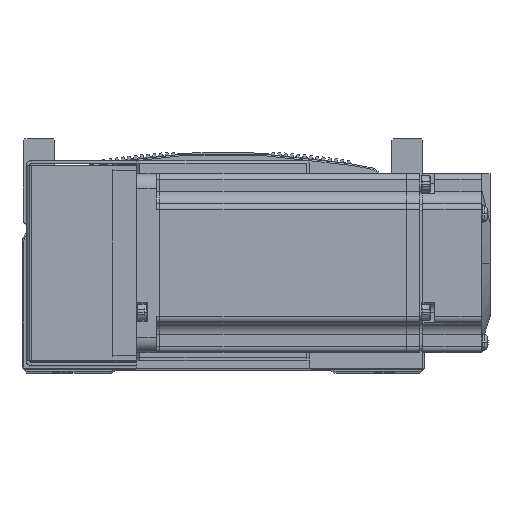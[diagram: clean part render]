
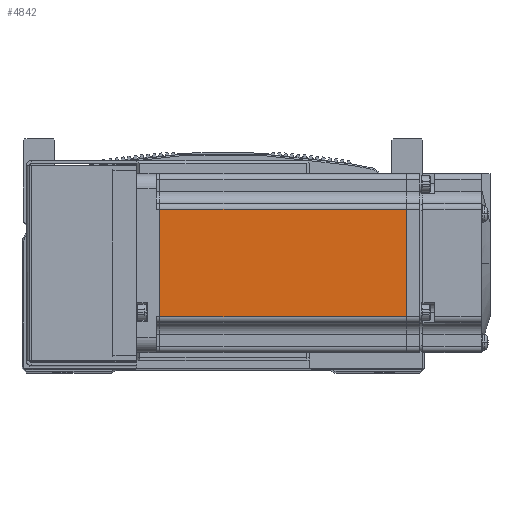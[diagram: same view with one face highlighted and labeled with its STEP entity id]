
A CAD part, top view. The second image highlights one B-rep face of the part: STEP entity #4842.
In plain terms, the highlighted planar face has unit normal (0, 0, 1) as drawn and (0, 0, -1) by its records, which use the part's own axes.
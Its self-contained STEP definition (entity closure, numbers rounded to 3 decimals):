
#4842 = ADVANCED_FACE ( 'NONE', ( #42727 ), #71141, .T. ) ;
#10644 = VECTOR ( 'NONE', #12331, 1000. ) ;
#10655 = LINE ( 'NONE', #12284, #10644 ) ;
#10696 = LINE ( 'NONE', #12427, #10724 ) ;
#10724 = VECTOR ( 'NONE', #12473, 1000. ) ;
#10727 = LINE ( 'NONE', #12731, #10762 ) ;
#10744 = VECTOR ( 'NONE', #12904, 1000. ) ;
#10760 = LINE ( 'NONE', #12844, #10744 ) ;
#10762 = VECTOR ( 'NONE', #12917, 1000. ) ;
#12284 = CARTESIAN_POINT ( 'NONE',  ( -6.5, -18., -30. ) ) ;
#12331 = DIRECTION ( 'NONE',  ( -1., 0., 0. ) ) ;
#12427 = CARTESIAN_POINT ( 'NONE',  ( -7.75, 25., -30. ) ) ;
#12473 = DIRECTION ( 'NONE',  ( 0., -1., 0. ) ) ;
#12731 = CARTESIAN_POINT ( 'NONE',  ( -6.5, 18., -30. ) ) ;
#12844 = CARTESIAN_POINT ( 'NONE',  ( -90.45, 25., -30. ) ) ;
#12904 = DIRECTION ( 'NONE',  ( 0., 1., 0. ) ) ;
#12917 = DIRECTION ( 'NONE',  ( 1., 0., 0. ) ) ;
#34470 = AXIS2_PLACEMENT_3D ( 'NONE', #71129, #71099, #71114 ) ;
#38364 = VERTEX_POINT ( 'NONE', #51764 ) ;
#38389 = VERTEX_POINT ( 'NONE', #51739 ) ;
#38447 = VERTEX_POINT ( 'NONE', #51812 ) ;
#38560 = VERTEX_POINT ( 'NONE', #51787 ) ;
#42727 = FACE_OUTER_BOUND ( 'NONE', #69717, .T. ) ;
#50460 = ORIENTED_EDGE ( 'NONE', *, *, #68138, .T. ) ;
#50616 = ORIENTED_EDGE ( 'NONE', *, *, #68087, .T. ) ;
#50693 = ORIENTED_EDGE ( 'NONE', *, *, #68067, .T. ) ;
#50713 = ORIENTED_EDGE ( 'NONE', *, *, #68127, .T. ) ;
#51739 = CARTESIAN_POINT ( 'NONE',  ( -7.75, 18., -30. ) ) ;
#51764 = CARTESIAN_POINT ( 'NONE',  ( -90.45, -18., -30. ) ) ;
#51787 = CARTESIAN_POINT ( 'NONE',  ( -7.75, -18., -30. ) ) ;
#51812 = CARTESIAN_POINT ( 'NONE',  ( -90.45, 18., -30. ) ) ;
#68067 = EDGE_CURVE ( 'NONE', #38560, #38364, #10655, .T. ) ;
#68087 = EDGE_CURVE ( 'NONE', #38389, #38560, #10696, .T. ) ;
#68127 = EDGE_CURVE ( 'NONE', #38447, #38389, #10727, .T. ) ;
#68138 = EDGE_CURVE ( 'NONE', #38364, #38447, #10760, .T. ) ;
#69717 = EDGE_LOOP ( 'NONE', ( #50616, #50693, #50460, #50713 ) ) ;
#71099 = DIRECTION ( 'NONE',  ( 0., 0., -1. ) ) ;
#71114 = DIRECTION ( 'NONE',  ( -1., 0., 0. ) ) ;
#71129 = CARTESIAN_POINT ( 'NONE',  ( -6.5, 25., -30. ) ) ;
#71141 = PLANE ( 'NONE',  #34470 ) ;
